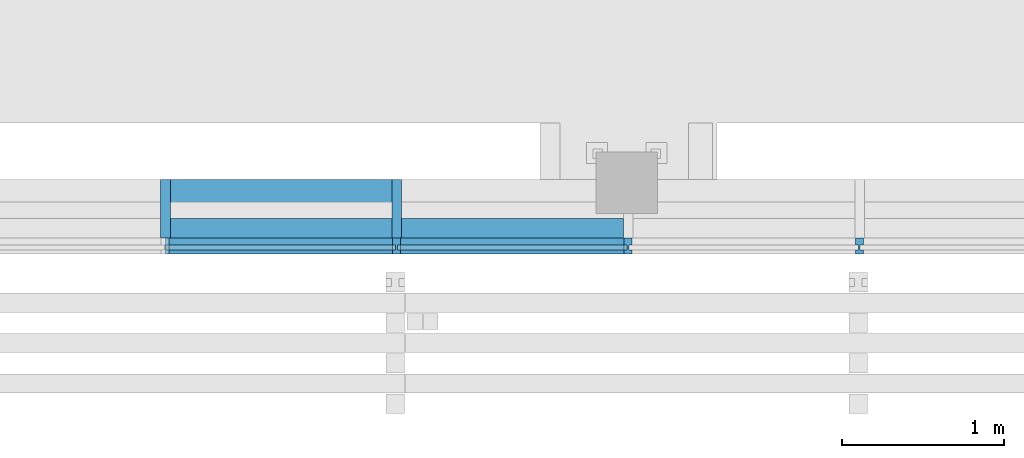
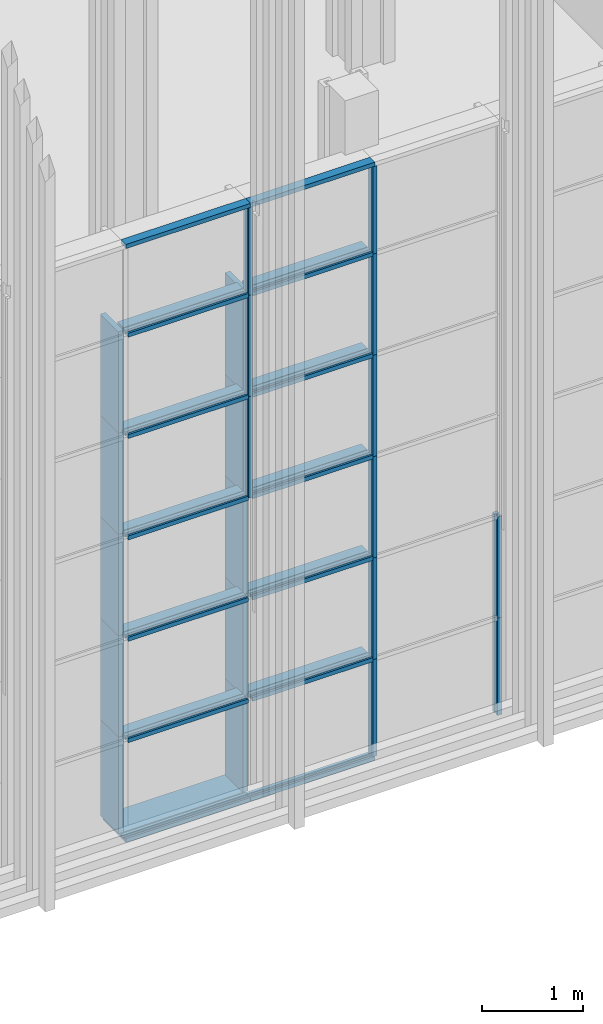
# One storey, part 16 of 260: 46 members, 2 elements without a shape of their own.
"""IFC2X3 building model written with IfcOpenShell, lengths in millimetres."""

from ifc_helpers import new_model, entity, si_unit, converted_unit, derived_unit, money_unit, direction, frame, origin_with_axes, place, context, subcontext, project, spatial, faceted_brep, source, transform, mapped, material, type_object, element, aggregate, save


model = new_model("IFC2X3")

# Units and contexts
model_context = context("Model", 3, precision=0.01, world=origin_with_axes(), true_north=direction((0.0, 1.0)))
body_context = subcontext(model_context, "Body", "Model", "MODEL_VIEW")
ifc_project = project(units=[si_unit("LENGTHUNIT", "METRE", prefix="MILLI"), si_unit("AREAUNIT", "SQUARE_METRE"), si_unit("VOLUMEUNIT", "CUBIC_METRE"), converted_unit("PLANEANGLEUNIT", "DEGREE", entity("IfcPlaneAngleMeasure", 0.0174532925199), si_unit("PLANEANGLEUNIT", "RADIAN"), dimensions=[0, 0, 0, 0, 0, 0, 0]), money_unit("EUR"), converted_unit("TIMEUNIT", "Year", entity("IfcTimeMeasure", 31556926.0), si_unit("TIMEUNIT", "SECOND"), dimensions=[0, 0, 1, 0, 0, 0, 0]), si_unit("MASSUNIT", "GRAM", prefix="KILO"), si_unit("THERMODYNAMICTEMPERATUREUNIT", "DEGREE_CELSIUS"), si_unit("LUMINOUSINTENSITYUNIT", "LUMEN"), si_unit("ENERGYUNIT", "JOULE", prefix="MEGA"), derived_unit("THERMALCONDUCTANCEUNIT", [(si_unit("POWERUNIT", "WATT"), 1), (si_unit("LENGTHUNIT", "METRE"), -1), (si_unit("THERMODYNAMICTEMPERATUREUNIT", "KELVIN"), -1)]), derived_unit("SPECIFICHEATCAPACITYUNIT", [(si_unit("ENERGYUNIT", "JOULE"), 1), (si_unit("MASSUNIT", "GRAM", prefix="KILO"), -1), (si_unit("THERMODYNAMICTEMPERATUREUNIT", "KELVIN"), -1)]), derived_unit("MASSDENSITYUNIT", [(si_unit("MASSUNIT", "GRAM", prefix="KILO"), 1), (si_unit("VOLUMEUNIT", "CUBIC_METRE"), -1)])], contexts=[model_context])

# Site, building, storey
site_placement = place(None, origin_with_axes())
site = spatial("IfcSite", under=ifc_project, at=site_placement, Name="Kolde pst 67a", CompositionType="ELEMENT")
building_placement = place(site_placement, origin_with_axes())
building = spatial("IfcBuilding", under=site, at=building_placement, Name="Riigigümnaasium", CompositionType="ELEMENT")
storey_placement = place(building_placement, origin_with_axes())
storey = spatial("IfcBuildingStorey", under=building, at=storey_placement, Name="1. korrus", CompositionType="ELEMENT", Elevation=0.0)

# Curtain wall, members
curtain_wall_type = type_object("IfcCurtainWallType", Name="Curtain Wall Type", PredefinedType="NOTDEFINED")
curtain_wall_1_placement = place(storey_placement, frame((47829.9854655, 8727.77020058, -0.000749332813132), z_axis=(0.0, 0.0, 1.0), x_axis=(1.0, 0.0, 0.0)))
curtain_wall_1 = element("IfcCurtainWall", 1, at=curtain_wall_1_placement, inside=storey, type_object=curtain_wall_type, Name="KLAASFASSAAD")
ifc_material_1 = material(Name="_METALL - alumiinium")
member_type_1 = type_object("IfcMemberType", Name="Mullion Frame 50 x 100", PredefinedType="MEMBER")
shared_shape_1 = source(origin_with_axes(), body_context, "Body", "Brep", [
    faceted_brep([(5.0, -16.5, 1230.00046362), (5.0, 16.5, 1230.00046362), (25.0, 16.5, 1230.00046362), (25.0, 40.0, 1230.00046362), (-25.0, 40.0, 1230.00046362), (-25.0, 16.5, 1230.00046362), (-5.0, 16.5, 1230.00046362), (-5.0, -16.5, 1230.00046362), (-25.0, -16.5, 1230.00046362), (-25.0, -60.0, 1230.00046362), (25.0, -60.0, 1230.00046362), (25.0, -16.5, 1230.00046362), (5.0, -16.5, 50.0), (5.0, 16.5, 50.0), (25.0, 16.5, 50.0), (25.0, 40.0, 50.0), (-25.0, 40.0, 50.0), (-25.0, 16.5, 50.0), (-5.0, 16.5, 50.0), (-5.0, -16.5, 50.0), (-25.0, -16.5, 50.0), (-25.0, -60.0, 50.0), (25.0, -60.0, 50.0), (25.0, -16.5, 50.0)], [[[0, 1, 2, 3, 4, 5, 6, 7, 8, 9, 10, 11]], [[0, 12, 13, 1]], [[1, 13, 14, 2]], [[14, 15, 3, 2]], [[4, 3, 15, 16]], [[17, 5, 4, 16]], [[5, 17, 18, 6]], [[7, 6, 18, 19]], [[8, 7, 19, 20]], [[8, 20, 21, 9]], [[10, 9, 21, 22]], [[11, 10, 22, 23]], [[11, 23, 12, 0]], [[13, 12, 23, 22, 21, 20, 19, 18, 17, 16, 15, 14]]]),
])
member_1_placement = place(curtain_wall_1_placement, frame((-4152.41506405, 15102.2773272, 0.000285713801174), z_axis=(0.0, 0.0, 1.0), x_axis=(0.999999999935, -1.14108152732e-05, 0.0)))
member_1 = element("IfcMember", 2, at=member_1_placement, type_object=member_type_1, material=ifc_material_1, Name="RF RAAM VERT-065", ObjectType="MEMBER", context=body_context, shape_type="MappedRepresentation", body=[
    mapped(shared_shape_1, transform((0.0, 0.0, 0.0), x_axis=(-1.0, 0.0, 0.0), y_axis=(0.0, -1.0, 0.0), z_axis=(0.0, 0.0, 1.0))),
])
member_2_placement = place(curtain_wall_1_placement, frame((-5582.41506396, 15102.2936447, 0.000285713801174), z_axis=(0.0, 0.0, 1.0), x_axis=(0.999999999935, -1.14108152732e-05, 0.0)))
member_2 = element("IfcMember", 3, at=member_2_placement, type_object=member_type_1, material=ifc_material_1, Name="RF RAAM VERT-071", ObjectType="MEMBER", context=body_context, shape_type="MappedRepresentation", body=[
    mapped(shared_shape_1, transform((0.0, 0.0, 0.0), x_axis=(-1.0, 0.0, 0.0), y_axis=(0.0, -1.0, 0.0), z_axis=(0.0, 0.0, 1.0))),
])
shared_shape_2 = source(origin_with_axes(), body_context, "Body", "Brep", [
    faceted_brep([(5.0, -16.5, 1230.0), (5.0, 16.5, 1230.0), (25.0, 16.5, 1230.0), (25.0, 40.0, 1230.0), (-25.0, 40.0, 1230.0), (-25.0, 16.5, 1230.0), (-5.0, 16.5, 1230.0), (-5.0, -16.5, 1230.0), (-25.0, -16.5, 1230.0), (-25.0, -60.0, 1230.0), (25.0, -60.0, 1230.0), (25.0, -16.5, 1230.0), (5.0, -16.5, 0.0), (5.0, 16.5, 0.0), (25.0, 16.5, 0.0), (25.0, 40.0, 0.0), (-25.0, 40.0, 0.0), (-25.0, 16.5, 0.0), (-5.0, 16.5, 0.0), (-5.0, -16.5, 0.0), (-25.0, -16.5, 0.0), (-25.0, -60.0, 0.0), (25.0, -60.0, 0.0), (25.0, -16.5, 0.0)], [[[0, 1, 2, 3, 4, 5, 6, 7, 8, 9, 10, 11]], [[0, 12, 13, 1]], [[1, 13, 14, 2]], [[14, 15, 3, 2]], [[3, 15, 16, 4]], [[17, 5, 4, 16]], [[5, 17, 18, 6]], [[7, 6, 18, 19]], [[8, 7, 19, 20]], [[8, 20, 21, 9]], [[9, 21, 22, 10]], [[11, 10, 22, 23]], [[11, 23, 12, 0]], [[13, 12, 23, 22, 21, 20, 19, 18, 17, 16, 15, 14]]]),
])
member_3_placement = place(curtain_wall_1_placement, frame((-4152.41506405, 15102.2773272, 1230.00074933), z_axis=(0.0, 0.0, 1.0), x_axis=(0.999999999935, -1.14108152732e-05, 0.0)))
member_3 = element("IfcMember", 4, at=member_3_placement, type_object=member_type_1, material=ifc_material_1, Name="RF RAAM VERT-066", ObjectType="MEMBER", context=body_context, shape_type="MappedRepresentation", body=[
    mapped(shared_shape_2, transform((0.0, 0.0, 0.0), x_axis=(-1.0, 0.0, 0.0), y_axis=(0.0, -1.0, 0.0), z_axis=(0.0, 0.0, 1.0))),
])
member_4_placement = place(curtain_wall_1_placement, frame((-5582.41506396, 15102.2936447, 1230.00074933), z_axis=(0.0, 0.0, 1.0), x_axis=(0.999999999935, -1.14108152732e-05, 0.0)))
member_4 = element("IfcMember", 5, at=member_4_placement, type_object=member_type_1, material=ifc_material_1, Name="RF RAAM VERT-072", ObjectType="MEMBER", context=body_context, shape_type="MappedRepresentation", body=[
    mapped(shared_shape_2, transform((0.0, 0.0, 0.0), x_axis=(-1.0, 0.0, 0.0), y_axis=(0.0, -1.0, 0.0), z_axis=(0.0, 0.0, 1.0))),
])
member_5_placement = place(curtain_wall_1_placement, frame((-5582.41506396, 15102.2936447, 2460.00074933), z_axis=(0.0, 0.0, 1.0), x_axis=(0.999999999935, -1.14108152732e-05, 0.0)))
member_5 = element("IfcMember", 6, at=member_5_placement, type_object=member_type_1, material=ifc_material_1, Name="RF RAAM VERT-073", ObjectType="MEMBER", context=body_context, shape_type="MappedRepresentation", body=[
    mapped(shared_shape_2, transform((0.0, 0.0, 0.0), x_axis=(-1.0, 0.0, 0.0), y_axis=(0.0, -1.0, 0.0), z_axis=(0.0, 0.0, 1.0))),
])
member_6_placement = place(curtain_wall_1_placement, frame((-5582.41506396, 15102.2936447, 3690.00074933), z_axis=(0.0, 0.0, 1.0), x_axis=(0.999999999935, -1.14108152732e-05, 0.0)))
member_6 = element("IfcMember", 7, at=member_6_placement, type_object=member_type_1, material=ifc_material_1, Name="RF RAAM VERT-074", ObjectType="MEMBER", context=body_context, shape_type="MappedRepresentation", body=[
    mapped(shared_shape_2, transform((0.0, 0.0, 0.0), x_axis=(-1.0, 0.0, 0.0), y_axis=(0.0, -1.0, 0.0), z_axis=(0.0, 0.0, 1.0))),
])
member_7_placement = place(curtain_wall_1_placement, frame((-5582.41506396, 15102.2936447, 4920.00074933), z_axis=(0.0, 0.0, 1.0), x_axis=(0.999999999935, -1.14108152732e-05, 0.0)))
member_7 = element("IfcMember", 8, at=member_7_placement, type_object=member_type_1, material=ifc_material_1, Name="RF RAAM VERT-075", ObjectType="MEMBER", context=body_context, shape_type="MappedRepresentation", body=[
    mapped(shared_shape_2, transform((0.0, 0.0, 0.0), x_axis=(-1.0, 0.0, 0.0), y_axis=(0.0, -1.0, 0.0), z_axis=(0.0, 0.0, 1.0))),
])
member_8_placement = place(curtain_wall_1_placement, frame((-7012.41506387, 15102.3099622, 3690.00074933), z_axis=(0.0, 0.0, 1.0), x_axis=(0.999999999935, -1.14108152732e-05, 0.0)))
member_8 = element("IfcMember", 9, at=member_8_placement, type_object=member_type_1, material=ifc_material_1, Name="RF RAAM VERT-080", ObjectType="MEMBER", context=body_context, shape_type="MappedRepresentation", body=[
    mapped(shared_shape_2, transform((0.0, 0.0, 0.0), x_axis=(-1.0, 0.0, 0.0), y_axis=(0.0, -1.0, 0.0), z_axis=(0.0, 0.0, 1.0))),
])
member_9_placement = place(curtain_wall_1_placement, frame((-7012.41506387, 15102.3099622, 4920.00074933), z_axis=(0.0, 0.0, 1.0), x_axis=(0.999999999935, -1.14108152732e-05, 0.0)))
member_9 = element("IfcMember", 10, at=member_9_placement, type_object=member_type_1, material=ifc_material_1, Name="RF RAAM VERT-081", ObjectType="MEMBER", context=body_context, shape_type="MappedRepresentation", body=[
    mapped(shared_shape_2, transform((0.0, 0.0, 0.0), x_axis=(-1.0, 0.0, 0.0), y_axis=(0.0, -1.0, 0.0), z_axis=(0.0, 0.0, 1.0))),
])
member_type_2 = type_object("IfcMemberType", Name="Boundary Frame 50 x 100", PredefinedType="MEMBER")
shared_shape_3 = source(origin_with_axes(), body_context, "Body", "Brep", [
    faceted_brep([(-30.0, -16.5, 1430.0), (-50.0, -16.5, 1430.0), (-50.0, -60.0, 1430.0), (0.0, -60.0, 1430.0), (0.0, 40.0, 1430.0), (-50.0, 40.0, 1430.0), (-50.0, 16.5, 1430.0), (-30.0, 16.5, 1430.0), (-30.0, -16.5, 0.0), (-50.0, -16.5, 0.0), (-50.0, -60.0, 0.0), (0.0, -60.0, 0.0), (0.0, 40.0, 0.0), (-50.0, 40.0, 0.0), (-50.0, 16.5, 0.0), (-30.0, 16.5, 0.0)], [[[0, 1, 2, 3, 4, 5, 6, 7]], [[0, 8, 9, 1]], [[9, 10, 2, 1]], [[10, 11, 3, 2]], [[11, 12, 4, 3]], [[12, 13, 5, 4]], [[6, 5, 13, 14]], [[14, 15, 7, 6]], [[7, 15, 8, 0]], [[8, 15, 14, 13, 12, 11, 10, 9]]]),
])
member_10_placement = place(curtain_wall_1_placement, frame((-5582.41506396, 15102.2936447, 0.000285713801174), z_axis=(-0.999999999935, 1.14108152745e-05, 0.0), x_axis=(0.0, 0.0, 1.0)))
member_10 = element("IfcMember", 11, at=member_10_placement, type_object=member_type_2, material=ifc_material_1, Name="RF RAAM SERV-593", ObjectType="MEMBER", context=body_context, shape_type="MappedRepresentation", body=[
    mapped(shared_shape_3, transform((0.0, 0.0, 0.0), x_axis=(-1.0, 0.0, 0.0), y_axis=(0.0, -1.0, 0.0), z_axis=(0.0, 0.0, 1.0))),
])
member_11_placement = place(curtain_wall_1_placement, frame((-7012.41506387, 15102.3099622, 0.000285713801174), z_axis=(-0.999999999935, 1.1410815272e-05, 0.0), x_axis=(0.0, 0.0, 1.0)))
member_11 = element("IfcMember", 12, at=member_11_placement, type_object=member_type_2, material=ifc_material_1, Name="RF RAAM SERV-594", ObjectType="MEMBER", context=body_context, shape_type="MappedRepresentation", body=[
    mapped(shared_shape_3, transform((0.0, 0.0, 0.0), x_axis=(-1.0, 0.0, 0.0), y_axis=(0.0, -1.0, 0.0), z_axis=(0.0, 0.0, 1.0))),
])
member_12_placement = place(curtain_wall_1_placement, frame((-7012.41506387, 15102.3099622, 7259.99992735), z_axis=(0.999999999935, -1.14108152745e-05, 0.0), x_axis=(0.0, 0.0, -1.0)))
member_12 = element("IfcMember", 13, at=member_12_placement, type_object=member_type_2, material=ifc_material_1, Name="RF RAAM SERV-624", ObjectType="MEMBER", context=body_context, shape_type="MappedRepresentation", body=[
    mapped(shared_shape_3, transform((0.0, 0.0, 0.0), x_axis=(-1.0, 0.0, 0.0), y_axis=(0.0, -1.0, 0.0), z_axis=(0.0, 0.0, 1.0))),
])
member_13_placement = place(curtain_wall_1_placement, frame((-8442.41506377, 15102.3262796, 7259.99992735), z_axis=(0.999999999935, -1.1410815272e-05, 0.0), x_axis=(0.0, 0.0, -1.0)))
member_13 = element("IfcMember", 14, at=member_13_placement, type_object=member_type_2, material=ifc_material_1, Name="RF RAAM SERV-623", ObjectType="MEMBER", context=body_context, shape_type="MappedRepresentation", body=[
    mapped(shared_shape_3, transform((0.0, 0.0, 0.0), x_axis=(-1.0, 0.0, 0.0), y_axis=(0.0, -1.0, 0.0), z_axis=(0.0, 0.0, 1.0))),
])
member_type_3 = type_object("IfcMemberType", Name="Transom Frame 50 x 100", PredefinedType="MEMBER")
shared_shape_4 = source(origin_with_axes(), body_context, "Body", "Brep", [
    faceted_brep([(5.0, -16.5, 1405.0), (5.0, 16.5, 1405.0), (25.0, 16.5, 1405.0), (25.0, 40.0, 1405.0), (-25.0, 40.0, 1405.0), (-25.0, 16.5, 1405.0), (-5.0, 16.5, 1405.0), (-5.0, -16.5, 1405.0), (-25.0, -16.5, 1405.0), (-25.0, -60.0, 1405.0), (25.0, -60.0, 1405.0), (25.0, -16.5, 1405.0), (5.0, -16.5, 25.0), (5.0, 16.5, 25.0), (25.0, 16.5, 25.0), (25.0, 40.0, 25.0), (-25.0, 40.0, 25.0), (-25.0, 16.5, 25.0), (-5.0, 16.5, 25.0), (-5.0, -16.5, 25.0), (-25.0, -16.5, 25.0), (-25.0, -60.0, 25.0), (25.0, -60.0, 25.0), (25.0, -16.5, 25.0)], [[[0, 1, 2, 3, 4, 5, 6, 7, 8, 9, 10, 11]], [[0, 12, 13, 1]], [[1, 13, 14, 2]], [[14, 15, 3, 2]], [[4, 3, 15, 16]], [[17, 5, 4, 16]], [[5, 17, 18, 6]], [[7, 6, 18, 19]], [[8, 7, 19, 20]], [[8, 20, 21, 9]], [[10, 9, 21, 22]], [[11, 10, 22, 23]], [[11, 23, 12, 0]], [[13, 12, 23, 22, 21, 20, 19, 18, 17, 16, 15, 14]]]),
])
member_14_placement = place(curtain_wall_1_placement, frame((-5582.41506396, 15102.2936447, 1230.00074933), z_axis=(-0.999999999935, 1.14108152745e-05, 0.0), x_axis=(0.0, 0.0, 1.0)))
member_14 = element("IfcMember", 15, at=member_14_placement, type_object=member_type_3, material=ifc_material_1, Name="RF RAAM HOR-029", ObjectType="MEMBER", context=body_context, shape_type="MappedRepresentation", body=[
    mapped(shared_shape_4, transform((0.0, 0.0, 0.0), x_axis=(-1.0, 0.0, 0.0), y_axis=(0.0, -1.0, 0.0), z_axis=(0.0, 0.0, 1.0))),
])
member_15_placement = place(curtain_wall_1_placement, frame((-7012.41506387, 15102.3099622, 1230.00074933), z_axis=(-0.999999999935, 1.1410815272e-05, 0.0), x_axis=(0.0, 0.0, 1.0)))
member_15 = element("IfcMember", 16, at=member_15_placement, type_object=member_type_3, material=ifc_material_1, Name="RF RAAM HOR-030", ObjectType="MEMBER", context=body_context, shape_type="MappedRepresentation", body=[
    mapped(shared_shape_4, transform((0.0, 0.0, 0.0), x_axis=(-1.0, 0.0, 0.0), y_axis=(0.0, -1.0, 0.0), z_axis=(0.0, 0.0, 1.0))),
])
member_16_placement = place(curtain_wall_1_placement, frame((-5582.41506396, 15102.2936447, 2460.00074933), z_axis=(-0.999999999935, 1.14108152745e-05, 0.0), x_axis=(0.0, 0.0, 1.0)))
member_16 = element("IfcMember", 17, at=member_16_placement, type_object=member_type_3, material=ifc_material_1, Name="RF RAAM HOR-046", ObjectType="MEMBER", context=body_context, shape_type="MappedRepresentation", body=[
    mapped(shared_shape_4, transform((0.0, 0.0, 0.0), x_axis=(-1.0, 0.0, 0.0), y_axis=(0.0, -1.0, 0.0), z_axis=(0.0, 0.0, 1.0))),
])
member_17_placement = place(curtain_wall_1_placement, frame((-7012.41506387, 15102.3099622, 2460.00074933), z_axis=(-0.999999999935, 1.1410815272e-05, 0.0), x_axis=(0.0, 0.0, 1.0)))
member_17 = element("IfcMember", 18, at=member_17_placement, type_object=member_type_3, material=ifc_material_1, Name="RF RAAM HOR-047", ObjectType="MEMBER", context=body_context, shape_type="MappedRepresentation", body=[
    mapped(shared_shape_4, transform((0.0, 0.0, 0.0), x_axis=(-1.0, 0.0, 0.0), y_axis=(0.0, -1.0, 0.0), z_axis=(0.0, 0.0, 1.0))),
])
member_18_placement = place(curtain_wall_1_placement, frame((-5582.41506396, 15102.2936447, 3690.00074933), z_axis=(-0.999999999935, 1.14108152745e-05, 0.0), x_axis=(0.0, 0.0, 1.0)))
member_18 = element("IfcMember", 19, at=member_18_placement, type_object=member_type_3, material=ifc_material_1, Name="RF RAAM HOR-063", ObjectType="MEMBER", context=body_context, shape_type="MappedRepresentation", body=[
    mapped(shared_shape_4, transform((0.0, 0.0, 0.0), x_axis=(-1.0, 0.0, 0.0), y_axis=(0.0, -1.0, 0.0), z_axis=(0.0, 0.0, 1.0))),
])
member_19_placement = place(curtain_wall_1_placement, frame((-7012.41506387, 15102.3099622, 3690.00074933), z_axis=(-0.999999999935, 1.1410815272e-05, 0.0), x_axis=(0.0, 0.0, 1.0)))
member_19 = element("IfcMember", 20, at=member_19_placement, type_object=member_type_3, material=ifc_material_1, Name="RF RAAM HOR-064", ObjectType="MEMBER", context=body_context, shape_type="MappedRepresentation", body=[
    mapped(shared_shape_4, transform((0.0, 0.0, 0.0), x_axis=(-1.0, 0.0, 0.0), y_axis=(0.0, -1.0, 0.0), z_axis=(0.0, 0.0, 1.0))),
])
member_20_placement = place(curtain_wall_1_placement, frame((-5582.41506396, 15102.2936447, 4920.00074933), z_axis=(-0.999999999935, 1.14108152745e-05, 0.0), x_axis=(0.0, 0.0, 1.0)))
member_20 = element("IfcMember", 21, at=member_20_placement, type_object=member_type_3, material=ifc_material_1, Name="RF RAAM HOR-080", ObjectType="MEMBER", context=body_context, shape_type="MappedRepresentation", body=[
    mapped(shared_shape_4, transform((0.0, 0.0, 0.0), x_axis=(-1.0, 0.0, 0.0), y_axis=(0.0, -1.0, 0.0), z_axis=(0.0, 0.0, 1.0))),
])
member_21_placement = place(curtain_wall_1_placement, frame((-7012.41506387, 15102.3099622, 4920.00074933), z_axis=(-0.999999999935, 1.1410815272e-05, 0.0), x_axis=(0.0, 0.0, 1.0)))
member_21 = element("IfcMember", 22, at=member_21_placement, type_object=member_type_3, material=ifc_material_1, Name="RF RAAM HOR-081", ObjectType="MEMBER", context=body_context, shape_type="MappedRepresentation", body=[
    mapped(shared_shape_4, transform((0.0, 0.0, 0.0), x_axis=(-1.0, 0.0, 0.0), y_axis=(0.0, -1.0, 0.0), z_axis=(0.0, 0.0, 1.0))),
])
member_22_placement = place(curtain_wall_1_placement, frame((-5582.41506396, 15102.2936447, 6150.00074933), z_axis=(-0.999999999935, 1.14108152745e-05, 0.0), x_axis=(0.0, 0.0, 1.0)))
member_22 = element("IfcMember", 23, at=member_22_placement, type_object=member_type_3, material=ifc_material_1, Name="RF RAAM HOR-097", ObjectType="MEMBER", context=body_context, shape_type="MappedRepresentation", body=[
    mapped(shared_shape_4, transform((0.0, 0.0, 0.0), x_axis=(-1.0, 0.0, 0.0), y_axis=(0.0, -1.0, 0.0), z_axis=(0.0, 0.0, 1.0))),
])
member_23_placement = place(curtain_wall_1_placement, frame((-7012.41506387, 15102.3099622, 6150.00074933), z_axis=(-0.999999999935, 1.1410815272e-05, 0.0), x_axis=(0.0, 0.0, 1.0)))
member_23 = element("IfcMember", 24, at=member_23_placement, type_object=member_type_3, material=ifc_material_1, Name="RF RAAM HOR-098", ObjectType="MEMBER", context=body_context, shape_type="MappedRepresentation", body=[
    mapped(shared_shape_4, transform((0.0, 0.0, 0.0), x_axis=(-1.0, 0.0, 0.0), y_axis=(0.0, -1.0, 0.0), z_axis=(0.0, 0.0, 1.0))),
])
shared_shape_5 = source(origin_with_axes(), body_context, "Body", "Brep", [
    faceted_brep([(5.0, -16.5, 1059.99917802), (5.0, 16.5, 1059.99917802), (25.0, 16.5, 1059.99917802), (25.0, 40.0, 1059.99917802), (-25.0, 40.0, 1059.99917802), (-25.0, 16.5, 1059.99917802), (-5.0, 16.5, 1059.99917802), (-5.0, -16.5, 1059.99917802), (-25.0, -16.5, 1059.99917802), (-25.0, -60.0, 1059.99917802), (25.0, -60.0, 1059.99917802), (25.0, -16.5, 1059.99917802), (5.0, -16.5, 0.0), (5.0, 16.5, 0.0), (25.0, 16.5, 0.0), (25.0, 40.0, 0.0), (-25.0, 40.0, 0.0), (-25.0, 16.5, 0.0), (-5.0, 16.5, 0.0), (-5.0, -16.5, 0.0), (-25.0, -16.5, 0.0), (-25.0, -60.0, 0.0), (25.0, -60.0, 0.0), (25.0, -16.5, 0.0)], [[[0, 1, 2, 3, 4, 5, 6, 7, 8, 9, 10, 11]], [[0, 12, 13, 1]], [[1, 13, 14, 2]], [[14, 15, 3, 2]], [[3, 15, 16, 4]], [[17, 5, 4, 16]], [[5, 17, 18, 6]], [[7, 6, 18, 19]], [[8, 7, 19, 20]], [[8, 20, 21, 9]], [[9, 21, 22, 10]], [[11, 10, 22, 23]], [[11, 23, 12, 0]], [[13, 12, 23, 22, 21, 20, 19, 18, 17, 16, 15, 14]]]),
])
member_24_placement = place(curtain_wall_1_placement, frame((-5582.41506396, 15102.2936447, 6150.00074933), z_axis=(0.0, 0.0, 1.0), x_axis=(0.999999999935, -1.14108152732e-05, 0.0)))
member_24 = element("IfcMember", 25, at=member_24_placement, type_object=member_type_1, material=ifc_material_1, Name="RF RAAM VERT-077", ObjectType="MEMBER", context=body_context, shape_type="MappedRepresentation", body=[
    mapped(shared_shape_5, transform((0.0, 0.0, 0.0), x_axis=(-1.0, 0.0, 0.0), y_axis=(0.0, -1.0, 0.0), z_axis=(0.0, 0.0, 1.0))),
])
member_25_placement = place(curtain_wall_1_placement, frame((-7012.41506387, 15102.3099622, 6150.00074933), z_axis=(0.0, 0.0, 1.0), x_axis=(0.999999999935, -1.14108152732e-05, 0.0)))
member_25 = element("IfcMember", 26, at=member_25_placement, type_object=member_type_1, material=ifc_material_1, Name="RF RAAM VERT-078", ObjectType="MEMBER", context=body_context, shape_type="MappedRepresentation", body=[
    mapped(shared_shape_5, transform((0.0, 0.0, 0.0), x_axis=(-1.0, 0.0, 0.0), y_axis=(0.0, -1.0, 0.0), z_axis=(0.0, 0.0, 1.0))),
])
aggregate(curtain_wall_1, [member_1, member_3, member_2, member_4, member_5, member_6, member_7, member_8, member_9, member_10, member_11, member_14, member_15, member_16, member_17, member_18, member_19, member_20, member_21, member_22, member_23, member_24, member_25, member_12, member_13])

curtain_wall_2_placement = place(storey_placement, frame((23890.0026791, 27220.1832522, -0.000253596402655), z_axis=(0.0, 0.0, 1.0), x_axis=(1.0, 0.0, 0.0)))
curtain_wall_2 = element("IfcCurtainWall", 27, at=curtain_wall_2_placement, inside=storey, type_object=curtain_wall_type, Name="Klaasfassaadi puitkarkass")
ifc_material_2 = material(Name="_KANDETARIND - liimpuit vastavalt EK osale")
member_type_4 = type_object("IfcMemberType", Name="Transom Frame 60 x 120", PredefinedType="MEMBER")
shared_shape_6 = source(origin_with_axes(), body_context, "Body", "Brep", [
    faceted_brep([(-30.0, 0.0, 30.0), (-30.0, -120.0, 30.0), (-30.0, -120.0, 1400.0), (-30.0, 0.0, 1400.0), (30.0, 0.0, 30.0), (30.0, -120.0, 30.0), (30.0, -120.0, 1400.0), (30.0, 0.0, 1400.0)], [[[0, 1, 2, 3]], [[1, 0, 4, 5]], [[1, 5, 6, 2]], [[2, 6, 7, 3]], [[4, 0, 3, 7]], [[5, 4, 7, 6]]]),
])
member_26_placement = place(curtain_wall_2_placement, frame((18359.3770557, -3330.16844558, 1230.0002536), z_axis=(-1.0, 0.0, 0.0), x_axis=(0.0, 0.0, 1.0)))
member_26 = element("IfcMember", 28, at=member_26_placement, type_object=member_type_4, material=ifc_material_2, Name="RF RAAM HOR-648", ObjectType="MEMBER", context=body_context, shape_type="MappedRepresentation", body=[
    mapped(shared_shape_6, transform((0.0, 0.0, 0.0), x_axis=(-1.0, 0.0, 0.0), y_axis=(0.0, -1.0, 0.0), z_axis=(0.0, 0.0, 1.0))),
])
member_27_placement = place(curtain_wall_2_placement, frame((16929.3770557, -3330.16844571, 1230.0002536), z_axis=(-1.0, 0.0, 0.0), x_axis=(0.0, 0.0, 1.0)))
member_27 = element("IfcMember", 29, at=member_27_placement, type_object=member_type_4, material=ifc_material_2, Name="RF RAAM HOR-648", ObjectType="MEMBER", context=body_context, shape_type="MappedRepresentation", body=[
    mapped(shared_shape_6, transform((0.0, 0.0, 0.0), x_axis=(-1.0, 0.0, 0.0), y_axis=(0.0, -1.0, 0.0), z_axis=(0.0, 0.0, 1.0))),
])
member_28_placement = place(curtain_wall_2_placement, frame((18359.3770557, -3330.16844558, 2460.0002536), z_axis=(-1.0, 0.0, 0.0), x_axis=(0.0, 0.0, 1.0)))
member_28 = element("IfcMember", 30, at=member_28_placement, type_object=member_type_4, material=ifc_material_2, Name="RF RAAM HOR-648", ObjectType="MEMBER", context=body_context, shape_type="MappedRepresentation", body=[
    mapped(shared_shape_6, transform((0.0, 0.0, 0.0), x_axis=(-1.0, 0.0, 0.0), y_axis=(0.0, -1.0, 0.0), z_axis=(0.0, 0.0, 1.0))),
])
member_29_placement = place(curtain_wall_2_placement, frame((16929.3770557, -3330.16844571, 2460.0002536), z_axis=(-1.0, 0.0, 0.0), x_axis=(0.0, 0.0, 1.0)))
member_29 = element("IfcMember", 31, at=member_29_placement, type_object=member_type_4, material=ifc_material_2, Name="RF RAAM HOR-648", ObjectType="MEMBER", context=body_context, shape_type="MappedRepresentation", body=[
    mapped(shared_shape_6, transform((0.0, 0.0, 0.0), x_axis=(-1.0, 0.0, 0.0), y_axis=(0.0, -1.0, 0.0), z_axis=(0.0, 0.0, 1.0))),
])
member_30_placement = place(curtain_wall_2_placement, frame((18359.3770557, -3330.16844558, 3690.0002536), z_axis=(-1.0, 0.0, 0.0), x_axis=(0.0, 0.0, 1.0)))
member_30 = element("IfcMember", 32, at=member_30_placement, type_object=member_type_4, material=ifc_material_2, Name="RF RAAM HOR-648", ObjectType="MEMBER", context=body_context, shape_type="MappedRepresentation", body=[
    mapped(shared_shape_6, transform((0.0, 0.0, 0.0), x_axis=(-1.0, 0.0, 0.0), y_axis=(0.0, -1.0, 0.0), z_axis=(0.0, 0.0, 1.0))),
])
member_31_placement = place(curtain_wall_2_placement, frame((16929.3770557, -3330.16844571, 3690.0002536), z_axis=(-1.0, 0.0, 0.0), x_axis=(0.0, 0.0, 1.0)))
member_31 = element("IfcMember", 33, at=member_31_placement, type_object=member_type_4, material=ifc_material_2, Name="RF RAAM HOR-648", ObjectType="MEMBER", context=body_context, shape_type="MappedRepresentation", body=[
    mapped(shared_shape_6, transform((0.0, 0.0, 0.0), x_axis=(-1.0, 0.0, 0.0), y_axis=(0.0, -1.0, 0.0), z_axis=(0.0, 0.0, 1.0))),
])
member_32_placement = place(curtain_wall_2_placement, frame((18359.3770557, -3330.16844558, 4920.0002536), z_axis=(-1.0, 0.0, 0.0), x_axis=(0.0, 0.0, 1.0)))
member_32 = element("IfcMember", 34, at=member_32_placement, type_object=member_type_4, material=ifc_material_2, Name="RF RAAM HOR-648", ObjectType="MEMBER", context=body_context, shape_type="MappedRepresentation", body=[
    mapped(shared_shape_6, transform((0.0, 0.0, 0.0), x_axis=(-1.0, 0.0, 0.0), y_axis=(0.0, -1.0, 0.0), z_axis=(0.0, 0.0, 1.0))),
])
member_33_placement = place(curtain_wall_2_placement, frame((16929.3770557, -3330.16844571, 4920.0002536), z_axis=(-1.0, 0.0, 0.0), x_axis=(0.0, 0.0, 1.0)))
member_33 = element("IfcMember", 35, at=member_33_placement, type_object=member_type_4, material=ifc_material_2, Name="RF RAAM HOR-648", ObjectType="MEMBER", context=body_context, shape_type="MappedRepresentation", body=[
    mapped(shared_shape_6, transform((0.0, 0.0, 0.0), x_axis=(-1.0, 0.0, 0.0), y_axis=(0.0, -1.0, 0.0), z_axis=(0.0, 0.0, 1.0))),
])
member_34_placement = place(curtain_wall_2_placement, frame((18359.3770557, -3330.16844558, 6150.0002536), z_axis=(-1.0, 0.0, 0.0), x_axis=(0.0, 0.0, 1.0)))
member_34 = element("IfcMember", 36, at=member_34_placement, type_object=member_type_4, material=ifc_material_2, Name="RF RAAM HOR-648", ObjectType="MEMBER", context=body_context, shape_type="MappedRepresentation", body=[
    mapped(shared_shape_6, transform((0.0, 0.0, 0.0), x_axis=(-1.0, 0.0, 0.0), y_axis=(0.0, -1.0, 0.0), z_axis=(0.0, 0.0, 1.0))),
])
member_35_placement = place(curtain_wall_2_placement, frame((16929.3770557, -3330.16844571, 6150.0002536), z_axis=(-1.0, 0.0, 0.0), x_axis=(0.0, 0.0, 1.0)))
member_35 = element("IfcMember", 37, at=member_35_placement, type_object=member_type_4, material=ifc_material_2, Name="RF RAAM HOR-648", ObjectType="MEMBER", context=body_context, shape_type="MappedRepresentation", body=[
    mapped(shared_shape_6, transform((0.0, 0.0, 0.0), x_axis=(-1.0, 0.0, 0.0), y_axis=(0.0, -1.0, 0.0), z_axis=(0.0, 0.0, 1.0))),
])
member_type_5 = type_object("IfcMemberType", Name="Mullion Frame 60 x 360", PredefinedType="MEMBER")
shared_shape_7 = source(origin_with_axes(), body_context, "Body", "Brep", [
    faceted_brep([(-30.0, 0.0, 60.0), (-30.0, -360.0, 60.0), (-30.0, -360.0, 1230.0002536), (-30.0, 0.0, 1230.0002536), (30.0, 0.0, 60.0), (30.0, -360.0, 60.0), (30.0, -360.0, 1230.0002536), (30.0, 0.0, 1230.0002536)], [[[0, 1, 2, 3]], [[1, 0, 4, 5]], [[1, 5, 6, 2]], [[2, 6, 7, 3]], [[4, 0, 3, 7]], [[5, 4, 7, 6]]]),
])
member_36_placement = place(curtain_wall_2_placement, frame((16929.3770557, -3330.16844571, 0.000124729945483), z_axis=(0.0, 0.0, 1.0), x_axis=(1.0, 0.0, 0.0)))
member_36 = element("IfcMember", 38, at=member_36_placement, type_object=member_type_5, material=ifc_material_2, Name="RF RAAM VERT-837", ObjectType="MEMBER", context=body_context, shape_type="MappedRepresentation", body=[
    mapped(shared_shape_7, transform((0.0, 0.0, 0.0), x_axis=(-1.0, 0.0, 0.0), y_axis=(0.0, -1.0, 0.0), z_axis=(0.0, 0.0, 1.0))),
])
member_37_placement = place(curtain_wall_2_placement, frame((15499.3770557, -3330.16844584, 0.000124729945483), z_axis=(0.0, 0.0, 1.0), x_axis=(1.0, 0.0, 0.0)))
member_37 = element("IfcMember", 39, at=member_37_placement, type_object=member_type_5, material=ifc_material_2, Name="RF RAAM VERT-837", ObjectType="MEMBER", context=body_context, shape_type="MappedRepresentation", body=[
    mapped(shared_shape_7, transform((0.0, 0.0, 0.0), x_axis=(-1.0, 0.0, 0.0), y_axis=(0.0, -1.0, 0.0), z_axis=(0.0, 0.0, 1.0))),
])
shared_shape_8 = source(origin_with_axes(), body_context, "Body", "Brep", [
    faceted_brep([(-30.0, -360.0, 0.0), (-30.0, -360.0, 1230.0), (-30.0, 0.0, 1230.0), (-30.0, 0.0, 0.0), (30.0, -360.0, 0.0), (30.0, -360.0, 1230.0), (30.0, 0.0, 1230.0), (30.0, 0.0, 0.0)], [[[0, 1, 2, 3]], [[4, 5, 1, 0]], [[1, 5, 6, 2]], [[3, 2, 6, 7]], [[0, 3, 7, 4]], [[7, 6, 5, 4]]]),
])
member_38_placement = place(curtain_wall_2_placement, frame((16929.3770557, -3330.16844571, 1230.0002536), z_axis=(0.0, 0.0, 1.0), x_axis=(1.0, 0.0, 0.0)))
member_38 = element("IfcMember", 40, at=member_38_placement, type_object=member_type_5, material=ifc_material_2, Name="RF RAAM VERT-837", ObjectType="MEMBER", context=body_context, shape_type="MappedRepresentation", body=[
    mapped(shared_shape_8, transform((0.0, 0.0, 0.0), x_axis=(-1.0, 0.0, 0.0), y_axis=(0.0, -1.0, 0.0), z_axis=(0.0, 0.0, 1.0))),
])
member_39_placement = place(curtain_wall_2_placement, frame((16929.3770557, -3330.16844571, 2460.0002536), z_axis=(0.0, 0.0, 1.0), x_axis=(1.0, 0.0, 0.0)))
member_39 = element("IfcMember", 41, at=member_39_placement, type_object=member_type_5, material=ifc_material_2, Name="RF RAAM VERT-837", ObjectType="MEMBER", context=body_context, shape_type="MappedRepresentation", body=[
    mapped(shared_shape_8, transform((0.0, 0.0, 0.0), x_axis=(-1.0, 0.0, 0.0), y_axis=(0.0, -1.0, 0.0), z_axis=(0.0, 0.0, 1.0))),
])
member_40_placement = place(curtain_wall_2_placement, frame((16929.3770557, -3330.16844571, 3690.0002536), z_axis=(0.0, 0.0, 1.0), x_axis=(1.0, 0.0, 0.0)))
member_40 = element("IfcMember", 42, at=member_40_placement, type_object=member_type_5, material=ifc_material_2, Name="RF RAAM VERT-837", ObjectType="MEMBER", context=body_context, shape_type="MappedRepresentation", body=[
    mapped(shared_shape_8, transform((0.0, 0.0, 0.0), x_axis=(-1.0, 0.0, 0.0), y_axis=(0.0, -1.0, 0.0), z_axis=(0.0, 0.0, 1.0))),
])
member_41_placement = place(curtain_wall_2_placement, frame((16929.3770557, -3330.16844571, 4920.0002536), z_axis=(0.0, 0.0, 1.0), x_axis=(1.0, 0.0, 0.0)))
member_41 = element("IfcMember", 43, at=member_41_placement, type_object=member_type_5, material=ifc_material_2, Name="RF RAAM VERT-837", ObjectType="MEMBER", context=body_context, shape_type="MappedRepresentation", body=[
    mapped(shared_shape_8, transform((0.0, 0.0, 0.0), x_axis=(-1.0, 0.0, 0.0), y_axis=(0.0, -1.0, 0.0), z_axis=(0.0, 0.0, 1.0))),
])
member_42_placement = place(curtain_wall_2_placement, frame((15499.3770557, -3330.16844584, 1230.0002536), z_axis=(0.0, 0.0, 1.0), x_axis=(1.0, 0.0, 0.0)))
member_42 = element("IfcMember", 44, at=member_42_placement, type_object=member_type_5, material=ifc_material_2, Name="RF RAAM VERT-837", ObjectType="MEMBER", context=body_context, shape_type="MappedRepresentation", body=[
    mapped(shared_shape_8, transform((0.0, 0.0, 0.0), x_axis=(-1.0, 0.0, 0.0), y_axis=(0.0, -1.0, 0.0), z_axis=(0.0, 0.0, 1.0))),
])
member_43_placement = place(curtain_wall_2_placement, frame((15499.3770557, -3330.16844584, 2460.0002536), z_axis=(0.0, 0.0, 1.0), x_axis=(1.0, 0.0, 0.0)))
member_43 = element("IfcMember", 45, at=member_43_placement, type_object=member_type_5, material=ifc_material_2, Name="RF RAAM VERT-837", ObjectType="MEMBER", context=body_context, shape_type="MappedRepresentation", body=[
    mapped(shared_shape_8, transform((0.0, 0.0, 0.0), x_axis=(-1.0, 0.0, 0.0), y_axis=(0.0, -1.0, 0.0), z_axis=(0.0, 0.0, 1.0))),
])
member_44_placement = place(curtain_wall_2_placement, frame((15499.3770557, -3330.16844584, 3690.0002536), z_axis=(0.0, 0.0, 1.0), x_axis=(1.0, 0.0, 0.0)))
member_44 = element("IfcMember", 46, at=member_44_placement, type_object=member_type_5, material=ifc_material_2, Name="RF RAAM VERT-837", ObjectType="MEMBER", context=body_context, shape_type="MappedRepresentation", body=[
    mapped(shared_shape_8, transform((0.0, 0.0, 0.0), x_axis=(-1.0, 0.0, 0.0), y_axis=(0.0, -1.0, 0.0), z_axis=(0.0, 0.0, 1.0))),
])
member_45_placement = place(curtain_wall_2_placement, frame((15499.3770557, -3330.16844584, 4920.0002536), z_axis=(0.0, 0.0, 1.0), x_axis=(1.0, 0.0, 0.0)))
member_45 = element("IfcMember", 47, at=member_45_placement, type_object=member_type_5, material=ifc_material_2, Name="RF RAAM VERT-837", ObjectType="MEMBER", context=body_context, shape_type="MappedRepresentation", body=[
    mapped(shared_shape_8, transform((0.0, 0.0, 0.0), x_axis=(-1.0, 0.0, 0.0), y_axis=(0.0, -1.0, 0.0), z_axis=(0.0, 0.0, 1.0))),
])
member_type_6 = type_object("IfcMemberType", Name="Boundary Frame 60 x 360", PredefinedType="MEMBER")
shared_shape_9 = source(origin_with_axes(), body_context, "Body", "Brep", [
    faceted_brep([(-60.0, -360.0, 0.0), (-60.0, -360.0, 1430.0), (-60.0, 0.0, 1430.0), (-60.0, 0.0, 0.0), (0.0, -360.0, 0.0), (0.0, -360.0, 1430.0), (0.0, 0.0, 1430.0), (0.0, 0.0, 0.0)], [[[0, 1, 2, 3]], [[4, 5, 1, 0]], [[1, 5, 6, 2]], [[3, 2, 6, 7]], [[0, 3, 7, 4]], [[7, 6, 5, 4]]]),
])
member_46_placement = place(curtain_wall_2_placement, frame((16929.3770557, -3330.16844571, 0.000124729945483), z_axis=(-1.0, 0.0, 0.0), x_axis=(0.0, 0.0, 1.0)))
member_46 = element("IfcMember", 48, at=member_46_placement, type_object=member_type_6, material=ifc_material_2, Name="RF RAAM SERV-667", ObjectType="MEMBER", context=body_context, shape_type="MappedRepresentation", body=[
    mapped(shared_shape_9, transform((0.0, 0.0, 0.0), x_axis=(-1.0, 0.0, 0.0), y_axis=(0.0, -1.0, 0.0), z_axis=(0.0, 0.0, 1.0))),
])
aggregate(curtain_wall_2, [member_36, member_38, member_39, member_40, member_41, member_37, member_42, member_43, member_44, member_45, member_46, member_26, member_27, member_28, member_29, member_30, member_31, member_32, member_33, member_34, member_35])

save(model, "model.ifc")
